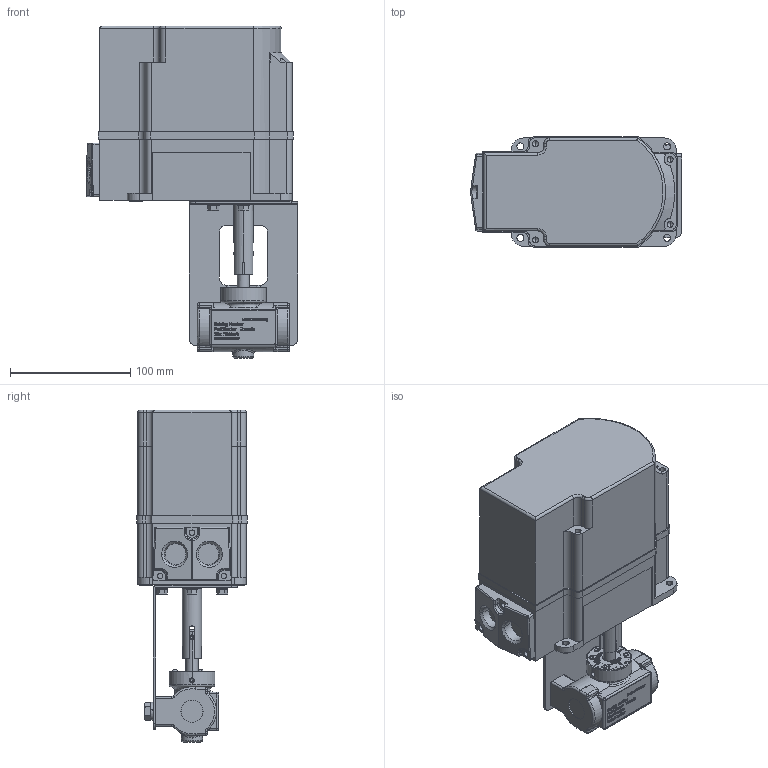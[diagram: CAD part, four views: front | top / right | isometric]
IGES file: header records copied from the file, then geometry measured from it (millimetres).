
Global section: file name: No Iges File Name specified; native system: AutoDesk Inventor R12.0; preprocessor: AutoDesk Inventor Iges Exporter R12.0; date: 20110328.092435; units: millimetre
Bounding box: 175.49 x 92 x 276 mm (x, y, z)
Volume: 2014724.9 mm3; surface area: 161007.7 mm2
Topology: 1 solids, 14 shells, 2970 faces, 7950 edges, 5187 vertices
Faces by surface type: plane 1589, bspline 991, cylinder 193, revolution 93, cone 47, torus 47, sphere 10
Full cylindrical faces by diameter (mm): 9.2 x3, 14.8 x2
